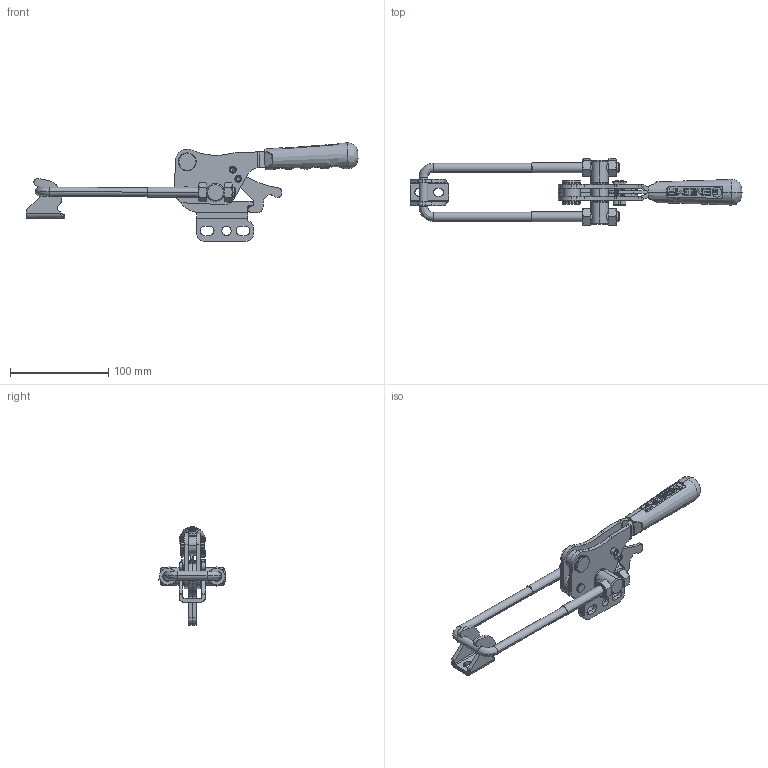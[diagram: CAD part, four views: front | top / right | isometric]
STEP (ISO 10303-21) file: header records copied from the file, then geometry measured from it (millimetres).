
FILE_DESCRIPTION (( 'STEP AP203' ), '1' );
FILE_NAME ('13110_D_K.STEP', '2022-11-30T12:45:00', ( '' ), ( '' ), 'SwSTEP 2.0', 'SolidWorks 2023', '' );
FILE_SCHEMA (( 'CONFIG_CONTROL_DESIGN' ));
Length unit declared in the file: millimetre
Products named in the file (15): M10x90_U_KANCA_Varsay_X2_0131_X0_lan; M8-M10_REV1_DefaultSM-FLAT-PATTERN; M10_S(SOMUN)_Varsay_X2_0131_X0_lan; M4_S; 13108_K_X2_0130_X0_L_X2_0130_X0_T_MEKAN_X2_0130_X0_ZMASI; Mirror13110_H.KOLU_2022_Varsay_X2_0131_X0_lan; 13110_OTOMAT_Varsay_X2_0131_X0_lan; S_M4x20 Imbus Civata; 13110_D_K; C95_Yeni_Tutamak_Varsay_X2_0131_X0_lan; Mirror2022_13108_13110_Y_G_X2_00d6_X0_VDE; 6x21_PER_X2_00c70130_X0_N_Varsay_X2_0131_X0_lan; 13110_OTOMAT_2_Varsay_X2_0131_X0_lan; 13110_H.KOLU_2022_Varsay_X2_0131_X0_lan; 2022_13108_13110_Y_G_X2_00d6_X0_VDE
Assembly tree (19 placements, depth 2):
  13110_D_K
    2022_13108_13110_Y_G_X2_00d6_X0_VDE
    13110_H.KOLU_2022_Varsay_X2_0131_X0_lan
    13110_OTOMAT_Varsay_X2_0131_X0_lan
    13110_OTOMAT_2_Varsay_X2_0131_X0_lan
    Mirror2022_13108_13110_Y_G_X2_00d6_X0_VDE
    Mirror13110_H.KOLU_2022_Varsay_X2_0131_X0_lan
    M10x90_U_KANCA_Varsay_X2_0131_X0_lan
    M8-M10_REV1_DefaultSM-FLAT-PATTERN
    C95_Yeni_Tutamak_Varsay_X2_0131_X0_lan
    6x21_PER_X2_00c70130_X0_N_Varsay_X2_0131_X0_lan
    S_M4x20 Imbus Civata  x2
    M10_S(SOMUN)_Varsay_X2_0131_X0_lan  x4
    M4_S  x2
    13108_K_X2_0130_X0_L_X2_0130_X0_T_MEKAN_X2_0130_X0_ZMASI
Bounding box: 338.48 x 67.41 x 100.35 mm (x, y, z)
Volume: 157931.1 mm3; surface area: 82273 mm2
Topology: 17 solids, 25 shells, 854 faces, 2180 edges, 1387 vertices
Faces by surface type: plane 354, cylinder 322, cone 106, bspline 72
Entity records: 47803 total; most frequent: CARTESIAN_POINT 30213, ORIENTED_EDGE 3430, DIRECTION 3096, EDGE_CURVE 1719, VERTEX_POINT 1101, AXIS2_PLACEMENT_3D 1081, LINE 934, VECTOR 934
